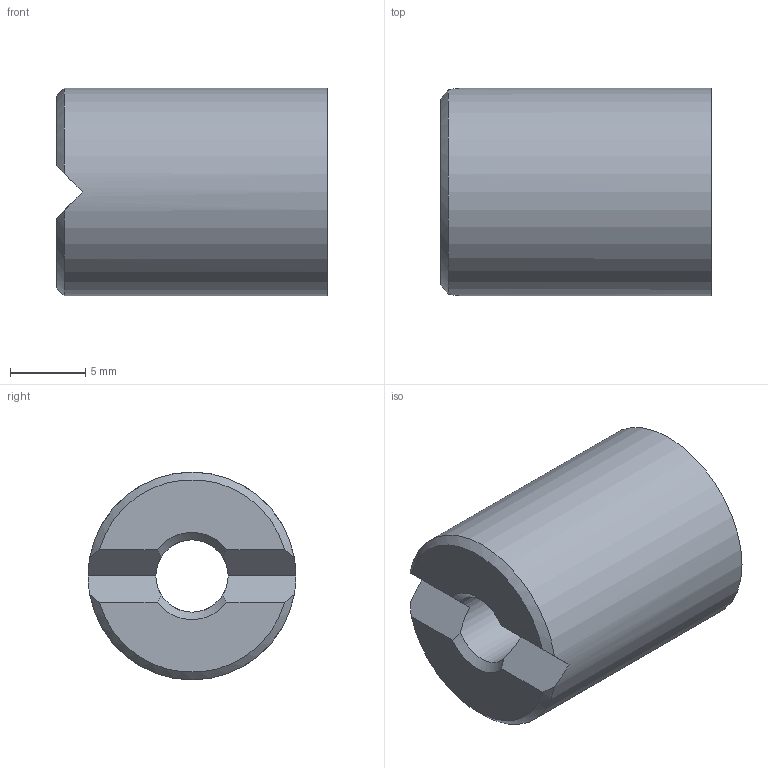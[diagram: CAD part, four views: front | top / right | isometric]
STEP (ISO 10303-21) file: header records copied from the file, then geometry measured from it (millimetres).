
FILE_DESCRIPTION(('FreeCAD Model'),'2;1');
FILE_NAME('Open CASCADE Shape Model','2023-11-11T09:59:00',(''),(''), 'Open CASCADE STEP processor 7.6','FreeCAD','Unknown');
FILE_SCHEMA(('AUTOMOTIVE_DESIGN { 1 0 10303 214 1 1 1 1 }'));
Length unit declared in the file: millimetre
Products named in the file (1): clamp_head
Bounding box: 18 x 13.8 x 13.8 mm (x, y, z)
Volume: 2258.2 mm3; surface area: 1324.4 mm2
Topology: 1 solids, 1 shells, 15 faces, 37 edges, 24 vertices
Faces by surface type: plane 8, cone 4, cylinder 3
Full cylindrical faces by diameter (mm): 4.8 x1, 8.4 x1, 13.8 x1
Entity records: 1040 total; most frequent: CARTESIAN_POINT 271, DIRECTION 149, ORIENTED_EDGE 74, PCURVE 74, DEFINITIONAL_REPRESENTATION 74, AXIS2_PLACEMENT_3D 44, LINE 43, VECTOR 43
